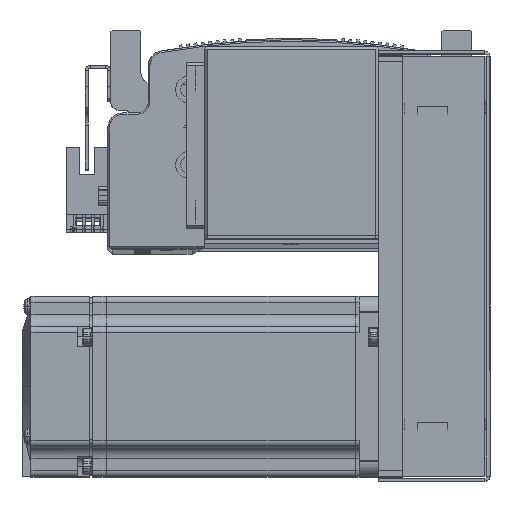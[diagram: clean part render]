
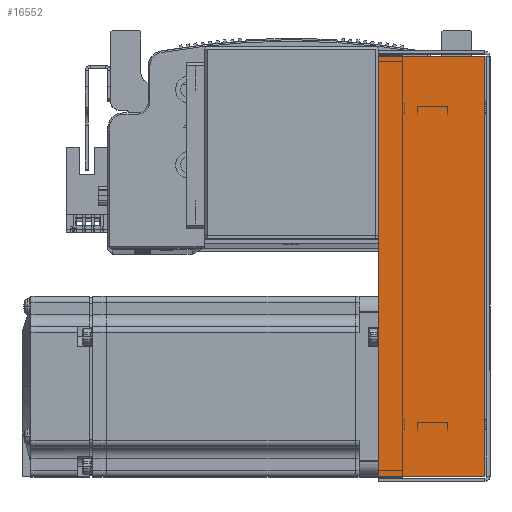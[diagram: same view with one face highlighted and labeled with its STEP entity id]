
A CAD part, top view. The second image highlights one B-rep face of the part: STEP entity #16552.
In plain terms, the highlighted planar face has unit normal (0, 0, 1).
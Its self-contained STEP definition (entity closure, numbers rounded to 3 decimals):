
#11769 = EDGE_CURVE ( 'NONE', #43033, #43063, #74083, .T. ) ;
#11809 = EDGE_CURVE ( 'NONE', #43063, #42982, #74196, .T. ) ;
#11856 = EDGE_CURVE ( 'NONE', #43001, #42982, #74241, .T. ) ;
#11933 = EDGE_CURVE ( 'NONE', #43033, #43001, #74406, .T. ) ;
#16552 = ADVANCED_FACE ( 'NONE', ( #35015 ), #60896, .F. ) ;
#35015 = FACE_OUTER_BOUND ( 'NONE', #60325, .T. ) ;
#42982 = VERTEX_POINT ( 'NONE', #69768 ) ;
#43001 = VERTEX_POINT ( 'NONE', #69815 ) ;
#43033 = VERTEX_POINT ( 'NONE', #69823 ) ;
#43063 = VERTEX_POINT ( 'NONE', #69840 ) ;
#56659 = CARTESIAN_POINT ( 'NONE',  ( -71.5, 0.737, 33.5 ) ) ;
#56666 = DIRECTION ( 'NONE',  ( -1., 0., 0. ) ) ;
#56883 = CARTESIAN_POINT ( 'NONE',  ( -69.793, 0., 33.5 ) ) ;
#56907 = DIRECTION ( 'NONE',  ( 0., 1., 0. ) ) ;
#57223 = CARTESIAN_POINT ( 'NONE',  ( 0., 36., 33.5 ) ) ;
#57286 = DIRECTION ( 'NONE',  ( -1., 0., 0. ) ) ;
#57511 = CARTESIAN_POINT ( 'NONE',  ( 69.793, 0., 33.5 ) ) ;
#57694 = DIRECTION ( 'NONE',  ( 0., 1., 0. ) ) ;
#59944 = ORIENTED_EDGE ( 'NONE', *, *, #11809, .F. ) ;
#59951 = ORIENTED_EDGE ( 'NONE', *, *, #11769, .F. ) ;
#59955 = ORIENTED_EDGE ( 'NONE', *, *, #11856, .T. ) ;
#59971 = ORIENTED_EDGE ( 'NONE', *, *, #11933, .T. ) ;
#60325 = EDGE_LOOP ( 'NONE', ( #59951, #59971, #59955, #59944 ) ) ;
#60855 = DIRECTION ( 'NONE',  ( 0., 0., -1. ) ) ;
#60883 = DIRECTION ( 'NONE',  ( -1., 0., 0. ) ) ;
#60895 = CARTESIAN_POINT ( 'NONE',  ( 0., 0., 33.5 ) ) ;
#60896 = PLANE ( 'NONE',  #71161 ) ;
#69768 = CARTESIAN_POINT ( 'NONE',  ( -69.793, 36., 33.5 ) ) ;
#69815 = CARTESIAN_POINT ( 'NONE',  ( 69.793, 36., 33.5 ) ) ;
#69823 = CARTESIAN_POINT ( 'NONE',  ( 69.793, 0.737, 33.5 ) ) ;
#69840 = CARTESIAN_POINT ( 'NONE',  ( -69.793, 0.737, 33.5 ) ) ;
#71161 = AXIS2_PLACEMENT_3D ( 'NONE', #60895, #60855, #60883 ) ;
#74075 = VECTOR ( 'NONE', #56666, 1000. ) ;
#74083 = LINE ( 'NONE', #56659, #74075 ) ;
#74152 = VECTOR ( 'NONE', #56907, 1000. ) ;
#74196 = LINE ( 'NONE', #56883, #74152 ) ;
#74241 = LINE ( 'NONE', #57223, #74242 ) ;
#74242 = VECTOR ( 'NONE', #57286, 1000. ) ;
#74384 = VECTOR ( 'NONE', #57694, 1000. ) ;
#74406 = LINE ( 'NONE', #57511, #74384 ) ;
